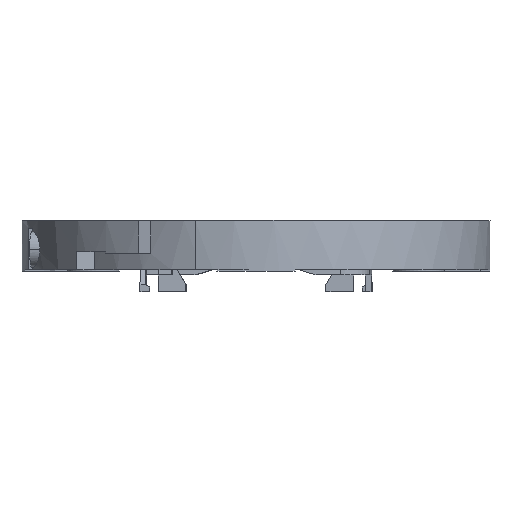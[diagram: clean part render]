
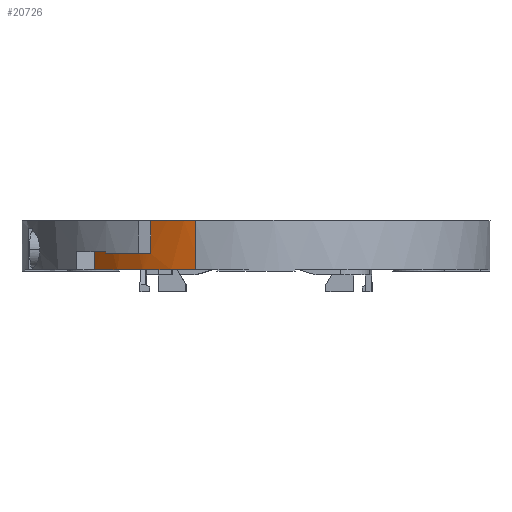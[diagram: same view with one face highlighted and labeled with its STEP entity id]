
A CAD part, front view. The second image highlights one B-rep face of the part: STEP entity #20726.
In plain terms, the highlighted cylindrical face has radius 22.5 mm (diameter 45 mm), a partial arc.
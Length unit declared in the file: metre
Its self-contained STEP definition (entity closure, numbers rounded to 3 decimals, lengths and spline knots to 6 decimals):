
#15751=CARTESIAN_POINT(' ',(-0.005823,-0.021733,0.));
#15752=VERTEX_POINT(' ',#15751);
#15766=CARTESIAN_POINT(' ',(0.,0.,0.));
#15771=DIRECTION(' ',(0.,0.,1.));
#15776=DIRECTION(' ',(-0.766,-0.643,0.));
#15781=AXIS2_PLACEMENT_3D(' ',#15766,#15771,#15776);
#15786=CIRCLE('',#15781,0.0225);
#15791=CARTESIAN_POINT(' ',(-0.017236,-0.014463,0.));
#15792=VERTEX_POINT(' ',#15791);
#15796=EDGE_CURVE(' ',#15792,#15752,#15786,.T.);
#20221=CARTESIAN_POINT(' ',(-0.005823,-0.021733,0.00525));
#20226=DIRECTION(' ',(0.,0.,-1.));
#20231=VECTOR(' ',#20226,1.);
#20236=LINE('',#20221,#20231);
#20241=CARTESIAN_POINT(' ',(-0.005823,-0.021733,0.00525));
#20242=VERTEX_POINT(' ',#20241);
#20246=EDGE_CURVE(' ',#20242,#15752,#20236,.T.);
#20461=CARTESIAN_POINT(' ',(0.,0.,0.070995));
#20466=DIRECTION(' ',(0.,0.,-1.));
#20471=DIRECTION(' ',(-0.259,-0.966,0.));
#20476=AXIS2_PLACEMENT_3D(' ',#20461,#20466,#20471);
#20481=CYLINDRICAL_SURFACE(' ',#20476,0.0225);
#20486=CARTESIAN_POINT(' ',(-0.01125,-0.019486,0.00525));
#20491=DIRECTION(' ',(0.,0.,-1.));
#20496=VECTOR(' ',#20491,1.);
#20501=LINE('',#20486,#20496);
#20506=CARTESIAN_POINT(' ',(-0.01125,-0.019486,0.00525));
#20507=VERTEX_POINT(' ',#20506);
#20511=CARTESIAN_POINT(' ',(-0.01125,-0.019486,0.00175));
#20512=VERTEX_POINT(' ',#20511);
#20516=EDGE_CURVE(' ',#20507,#20512,#20501,.T.);
#20521=ORIENTED_EDGE(' ',*,*,#20516,.T.);
#20526=CARTESIAN_POINT(' ',(0.,0.,0.00175));
#20531=DIRECTION(' ',(0.,0.,1.));
#20536=DIRECTION(' ',(-0.555,-0.832,0.));
#20541=AXIS2_PLACEMENT_3D(' ',#20526,#20531,#20536);
#20546=CIRCLE('',#20541,0.0225);
#20551=CARTESIAN_POINT(' ',(-0.012482,-0.01872,0.00175));
#20552=VERTEX_POINT(' ',#20551);
#20556=EDGE_CURVE(' ',#20552,#20512,#20546,.T.);
#20561=ORIENTED_EDGE(' ',*,*,#20556,.F.);
#20566=CARTESIAN_POINT(' ',(-0.012482,-0.01872,0.00405));
#20571=DIRECTION(' ',(0.,0.,-1.));
#20576=VECTOR(' ',#20571,1.);
#20581=LINE('',#20566,#20576);
#20586=CARTESIAN_POINT(' ',(-0.012482,-0.01872,0.00405));
#20587=VERTEX_POINT(' ',#20586);
#20591=EDGE_CURVE(' ',#20587,#20552,#20581,.T.);
#20596=ORIENTED_EDGE(' ',*,*,#20591,.F.);
#20601=CARTESIAN_POINT(' ',(0.,0.,0.00405));
#20606=DIRECTION(' ',(0.,0.,-1.));
#20611=DIRECTION(' ',(-0.555,-0.832,0.));
#20616=AXIS2_PLACEMENT_3D(' ',#20601,#20606,#20611);
#20621=CIRCLE('',#20616,0.0225);
#20626=CARTESIAN_POINT(' ',(-0.017236,-0.014463,0.00405));
#20627=VERTEX_POINT(' ',#20626);
#20631=EDGE_CURVE(' ',#20587,#20627,#20621,.T.);
#20636=ORIENTED_EDGE(' ',*,*,#20631,.T.);
#20641=CARTESIAN_POINT(' ',(-0.017236,-0.014463,0.00405));
#20646=DIRECTION(' ',(0.,0.,-1.));
#20651=VECTOR(' ',#20646,1.);
#20656=LINE('',#20641,#20651);
#20661=EDGE_CURVE(' ',#20627,#15792,#20656,.T.);
#20666=ORIENTED_EDGE(' ',*,*,#20661,.T.);
#20671=ORIENTED_EDGE(' ',*,*,#15796,.T.);
#20676=ORIENTED_EDGE(' ',*,*,#20246,.F.);
#20681=CARTESIAN_POINT(' ',(0.,0.,0.00525));
#20686=DIRECTION(' ',(0.,0.,-1.));
#20691=DIRECTION(' ',(-0.259,-0.966,0.));
#20696=AXIS2_PLACEMENT_3D(' ',#20681,#20686,#20691);
#20701=CIRCLE('',#20696,0.0225);
#20706=EDGE_CURVE(' ',#20242,#20507,#20701,.T.);
#20711=ORIENTED_EDGE(' ',*,*,#20706,.T.);
#20716=EDGE_LOOP(' ',(#20521,#20561,#20596,#20636,#20666,#20671,#20676,#20711));
#20721=FACE_OUTER_BOUND(' ',#20716,.T.);
#20726=ADVANCED_FACE('',(#20721),#20481,.T.);
